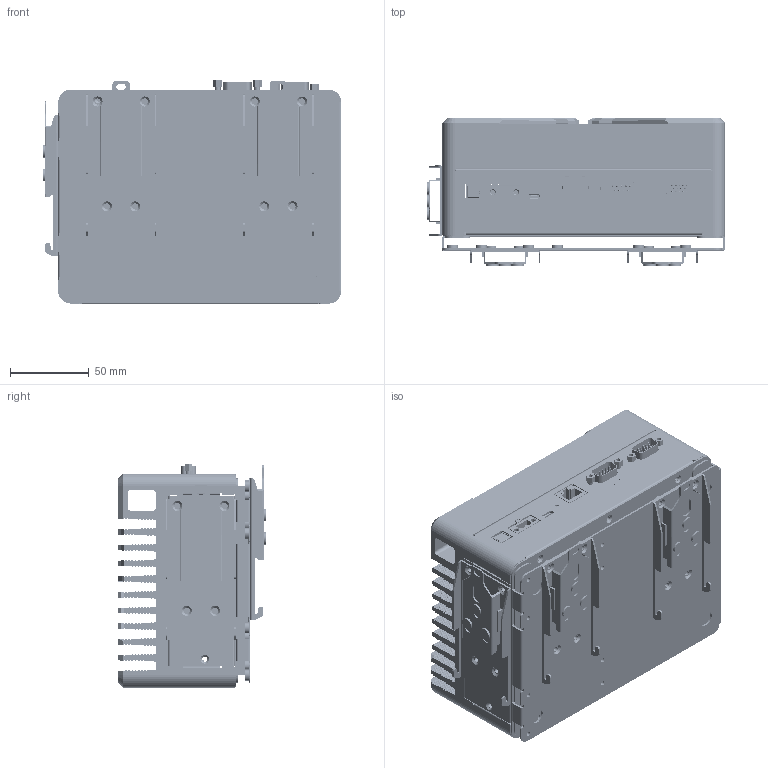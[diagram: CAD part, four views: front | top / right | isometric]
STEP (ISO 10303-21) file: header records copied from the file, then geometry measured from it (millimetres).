
FILE_DESCRIPTION (( 'STEP AP203' ), '1' );
FILE_NAME ('BOXER-8653-assembly-X Type-LMI-20240312.STEP', '2024-04-11T05:37:41', ( '' ), ( '' ), 'SwSTEP 2.0', 'SolidWorks 2016', '' );
FILE_SCHEMA (( 'CONFIG_CONTROL_DESIGN' ));
Products named in the file (1): BOXER-8653-assembly-X Type-LMI-20240312
Bounding box: 189.8 x 93.9 x 141.9 mm (x, y, z)
Surface area: 557807.1 mm2 (no closed solid volume)
Topology: 0 solids, 280 shells, 21191 faces, 59204 edges, 39016 vertices
Faces by surface type: plane 13181, cylinder 6725, bspline 1140, cone 94, sphere 48, torus 3
Entity records: 742637 total; most frequent: CARTESIAN_POINT 231305, ORIENTED_EDGE 118056, DIRECTION 87789, EDGE_CURVE 59096, VERTEX_POINT 38968, LINE 34509, VECTOR 34509, AXIS2_PLACEMENT_3D 26640
